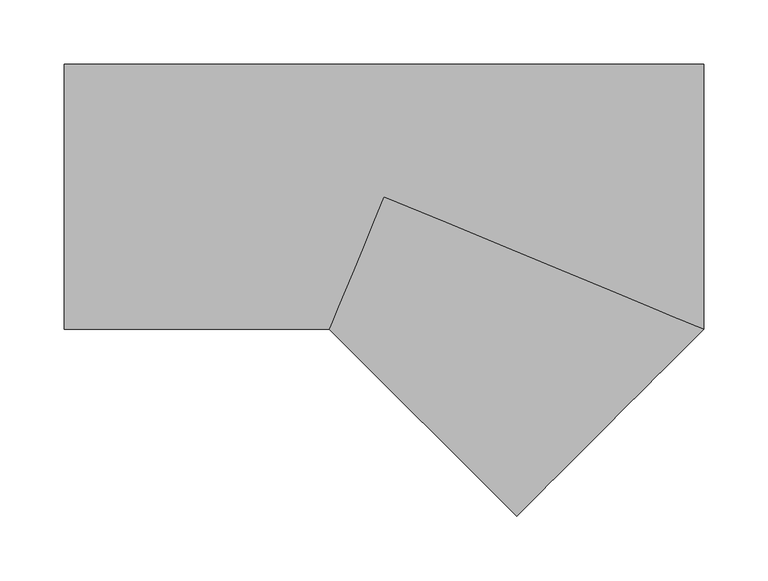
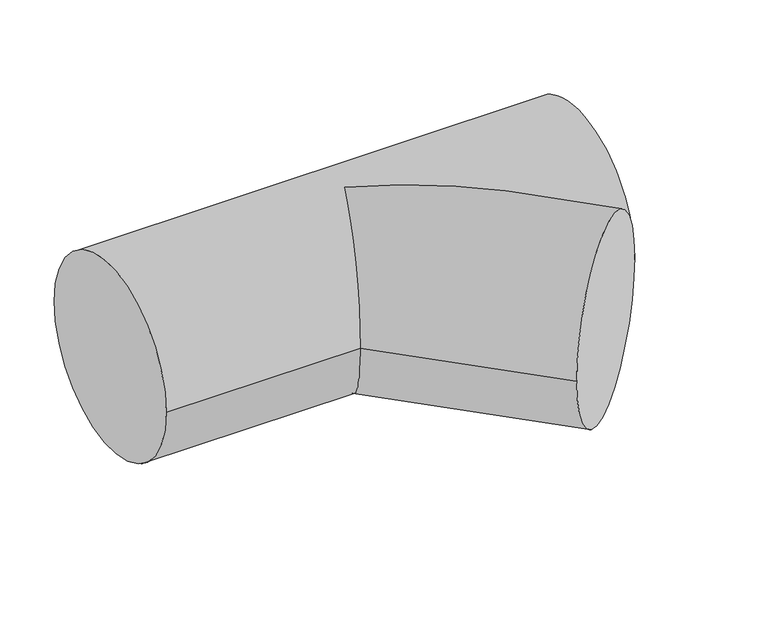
"""IFC4 building model written with IfcOpenShell, lengths in millimetres: pipe fitting geometry, M_Te - Genérica : Estándar."""

from ifc_helpers import new_model, si_unit, frame, origin, place, context, project, spatial, circle_curve, ellipse_curve, source, transform, mapped, element, save
from ifc_brep_helpers import plane_surface, cylinder_surface, advanced_brep


def pipe_fitting_fbf8ab9e(model_context):
    return source(origin(), model_context, "Body", "AdvancedBrep", [
        advanced_brep(
        [(-249.140049, -103.1875, 0.0), (-249.140049, 103.1875, 0.0), (249.140049, -103.1875, 0.0), (249.140049, 103.1875, 0.0), (-42.7376498, -103.1875, 0.0), (0.0, 0.0, 103.1875), (0.0, 0.0, -103.1875), (103.2205738, -249.1263481, 0.0)],
        [
            (0, 1, circle_curve(frame((-249.140049, 0.0, 0.0), z_axis=(-1.0, 0.0, 0.0), x_axis=(0.0, 1.0, 0.0)), 103.1875)),
            (1, 0, circle_curve(frame((-249.140049, 0.0, 0.0), z_axis=(-1.0, 0.0, 0.0), x_axis=(0.0, 1.0, 0.0)), 103.1875)),
            (2, 3, circle_curve(frame((249.140049, 0.0, 0.0), z_axis=(1.0, 0.0, 0.0), x_axis=(0.0, 1.0, 0.0)), 103.1875)),
            (3, 2, circle_curve(frame((249.140049, 0.0, 0.0), z_axis=(1.0, 0.0, 0.0), x_axis=(0.0, 1.0, 0.0)), 103.1875)),
            (0, 4),
            (4, 5, ellipse_curve(frame((0.0, 0.0, 0.0), z_axis=(-0.9238922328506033, 0.38265276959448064, 0.0), x_axis=(-0.38265276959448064, -0.9238922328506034, 0.0)), 111.6878098, 103.1875)),
            (5, 2, ellipse_curve(frame((0.0, 0.0, 0.0), z_axis=(0.38265276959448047, 0.9238922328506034, 0.0), x_axis=(-0.9238922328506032, 0.38265276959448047, 0.0)), 269.6635389, 103.1875)),
            (3, 1),
            (2, 6, ellipse_curve(frame((0.0, 0.0, 0.0), z_axis=(0.38265276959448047, 0.9238922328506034, 0.0), x_axis=(-0.9238922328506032, 0.38265276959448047, 0.0)), 269.6635389, 103.1875)),
            (6, 4, ellipse_curve(frame((0.0, 0.0, 0.0), z_axis=(-0.9238922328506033, 0.38265276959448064, 0.0), x_axis=(-0.38265276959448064, -0.9238922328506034, 0.0)), 111.6878098, 103.1875)),
            (7, 2, circle_curve(frame((176.1803114, -176.1569241, 0.0), z_axis=(0.7071537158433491, -0.707059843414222, 0.0), x_axis=(0.7070598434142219, 0.707153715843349, 0.0)), 103.1875)),
            (2, 7, circle_curve(frame((176.1803114, -176.1569241, 0.0), z_axis=(0.7071537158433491, -0.707059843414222, 0.0), x_axis=(0.7070598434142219, 0.707153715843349, 0.0)), 103.1875)),
            (4, 7),
        ],
        [
            plane_surface(frame((-249.140049, 0.0, 0.0), z_axis=(-1.0, 0.0, 0.0), x_axis=(0.0, 0.0, 1.0))),
            plane_surface(frame((249.140049, 0.0, 0.0), z_axis=(1.0, 0.0, 0.0), x_axis=(0.0, 0.0, 1.0))),
            cylinder_surface(frame((-249.140049, 0.0, 0.0), z_axis=(-1.0, 0.0, 0.0), x_axis=(0.0, 1.0, 0.0)), 103.1875),
            plane_surface(frame((176.1803114, -176.1569241, 0.0), z_axis=(0.7071537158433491, -0.707059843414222, 0.0), x_axis=(0.0, 0.0, 1.0))),
            cylinder_surface(frame((0.0, 0.0, 0.0), z_axis=(-0.707153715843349, 0.7070598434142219, 0.0), x_axis=(0.7070598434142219, 0.707153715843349, 0.0)), 103.1875),
        ],
        [
            (0, [[1, 2]]),
            (1, [[3, 4]]),
            (2, [[-1, 5, 6, 7, -4, 8]]),
            (2, [[-2, -8, -3, 9, 10, -5]]),
            (3, [[11, 12]]),
            (4, [[-12, -7, -6, 13]]),
            (4, [[-11, -13, -10, -9]]),
        ],
    ),
    ])


if __name__ == "__main__":
    model = new_model("IFC4")
    model_context = context("Model", 3, world=origin())
    ifc_project = project(units=[si_unit("LENGTHUNIT", "METRE", prefix="MILLI")], contexts=[model_context])
    site = spatial("IfcSite", under=ifc_project)
    building = spatial("IfcBuilding", under=site)
    placement = place(None, origin())
    pipe_fitting_shape = pipe_fitting_fbf8ab9e(model_context)
    element("IfcPipeFitting", 1, ObjectType="M_Te - Genérica : Estándar", at=placement, inside=building, context=model_context, shape_type="MappedRepresentation", body=[
        mapped(pipe_fitting_shape, transform((0.0, 0.0, 0.0), x_axis=(1.0, 0.0, 0.0), y_axis=(0.0, 1.0, 0.0), z_axis=(0.0, 0.0, 1.0))),
    ])
    save(model, "model.ifc")
